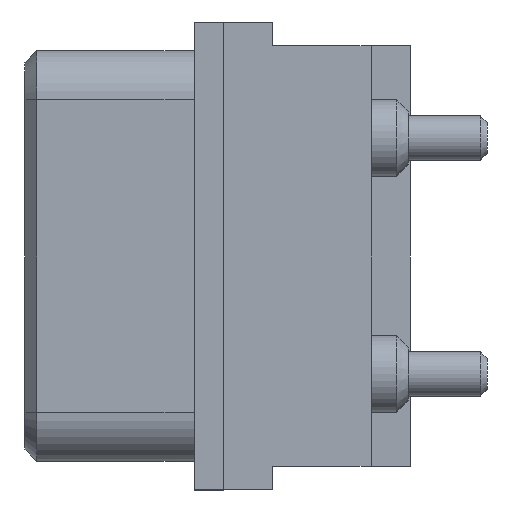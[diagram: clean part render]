
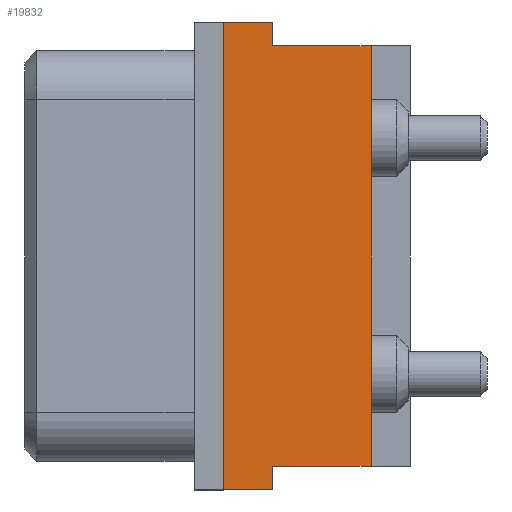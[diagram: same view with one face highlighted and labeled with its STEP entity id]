
A CAD part, left-side view. The second image highlights one B-rep face of the part: STEP entity #19832.
In plain terms, the highlighted planar face has unit normal (-1, 0, 0).
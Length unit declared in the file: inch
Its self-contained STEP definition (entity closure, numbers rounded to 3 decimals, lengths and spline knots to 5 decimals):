
#2855=PLANE('',#21304);
#3676=FACE_OUTER_BOUND('',#5320,.T.);
#5320=EDGE_LOOP('',(#16064,#16065,#16066,#16067,#16068,#16069,#16070,#16071));
#7254=LINE('',#31139,#8291);
#7258=LINE('',#32100,#8295);
#7266=LINE('',#32114,#8303);
#7273=LINE('',#32130,#8310);
#7277=LINE('',#32137,#8314);
#7279=LINE('',#32140,#8316);
#7286=LINE('',#32154,#8323);
#7288=LINE('',#32158,#8325);
#8291=VECTOR('',#23373,0.125);
#8295=VECTOR('',#24603,0.25);
#8303=VECTOR('',#24613,0.06);
#8310=VECTOR('',#24622,0.25);
#8314=VECTOR('',#24628,0.06);
#8316=VECTOR('',#24632,1.07);
#8323=VECTOR('',#24649,0.125);
#8325=VECTOR('',#24655,1.19);
#9848=VERTEX_POINT('',#31136);
#9849=VERTEX_POINT('',#31138);
#10191=VERTEX_POINT('',#32096);
#10193=VERTEX_POINT('',#32099);
#10205=VERTEX_POINT('',#32127);
#10206=VERTEX_POINT('',#32129);
#10208=VERTEX_POINT('',#32135);
#10210=VERTEX_POINT('',#32152);
#12052=EDGE_CURVE('',#9848,#9849,#7254,.T.);
#12396=EDGE_CURVE('',#10193,#10191,#7258,.T.);
#12404=EDGE_CURVE('',#9848,#10193,#7266,.T.);
#12411=EDGE_CURVE('',#10206,#10205,#7273,.T.);
#12415=EDGE_CURVE('',#10205,#10208,#7277,.T.);
#12417=EDGE_CURVE('',#10191,#10206,#7279,.T.);
#12424=EDGE_CURVE('',#10208,#10210,#7286,.T.);
#12426=EDGE_CURVE('',#9849,#10210,#7288,.T.);
#16064=ORIENTED_EDGE('',*,*,#12396,.T.);
#16065=ORIENTED_EDGE('',*,*,#12417,.T.);
#16066=ORIENTED_EDGE('',*,*,#12411,.T.);
#16067=ORIENTED_EDGE('',*,*,#12415,.T.);
#16068=ORIENTED_EDGE('',*,*,#12424,.T.);
#16069=ORIENTED_EDGE('',*,*,#12426,.F.);
#16070=ORIENTED_EDGE('',*,*,#12052,.F.);
#16071=ORIENTED_EDGE('',*,*,#12404,.T.);
#19832=ADVANCED_FACE('',(#3676),#2855,.T.);
#21304=AXIS2_PLACEMENT_3D('',#32157,#24653,#24654);
#23373=DIRECTION('',(0.,1.,0.));
#24603=DIRECTION('',(0.,-1.,0.));
#24613=DIRECTION('',(0.,0.,1.));
#24622=DIRECTION('',(0.,1.,0.));
#24628=DIRECTION('',(0.,0.,1.));
#24632=DIRECTION('',(0.,0.,1.));
#24649=DIRECTION('',(0.,1.,0.));
#24653=DIRECTION('center_axis',(-1.,0.,0.));
#24654=DIRECTION('ref_axis',(0.,0.,1.));
#24655=DIRECTION('',(0.,0.,1.));
#31136=CARTESIAN_POINT('',(0.,-0.125,0.));
#31138=CARTESIAN_POINT('',(0.,0.,0.));
#31139=CARTESIAN_POINT('',(0.,-0.375,0.));
#32096=CARTESIAN_POINT('',(0.,-0.375,0.06));
#32099=CARTESIAN_POINT('',(0.,-0.125,0.06));
#32100=CARTESIAN_POINT('',(0.,-0.425,0.06));
#32114=CARTESIAN_POINT('',(0.,-0.125,0.03));
#32127=CARTESIAN_POINT('',(0.,-0.125,1.13));
#32129=CARTESIAN_POINT('',(0.,-0.375,1.13));
#32130=CARTESIAN_POINT('',(0.,-0.25,1.13));
#32135=CARTESIAN_POINT('',(0.,-0.125,1.19));
#32137=CARTESIAN_POINT('',(0.,-0.125,0.595));
#32140=CARTESIAN_POINT('',(0.,-0.375,0.));
#32152=CARTESIAN_POINT('',(0.,0.,1.19));
#32154=CARTESIAN_POINT('',(0.,-0.375,1.19));
#32157=CARTESIAN_POINT('Origin',(0.,-0.375,0.));
#32158=CARTESIAN_POINT('',(0.,0.,0.));
